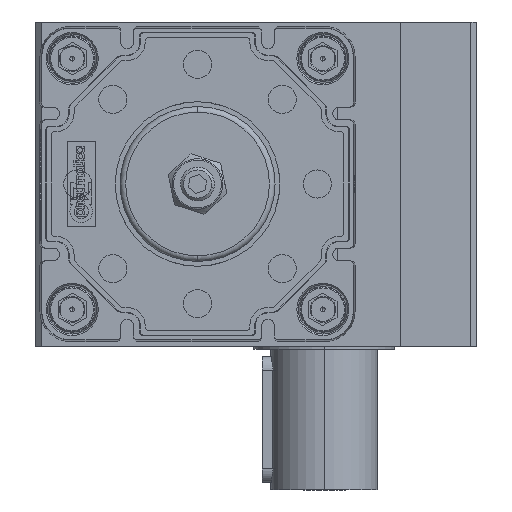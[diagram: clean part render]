
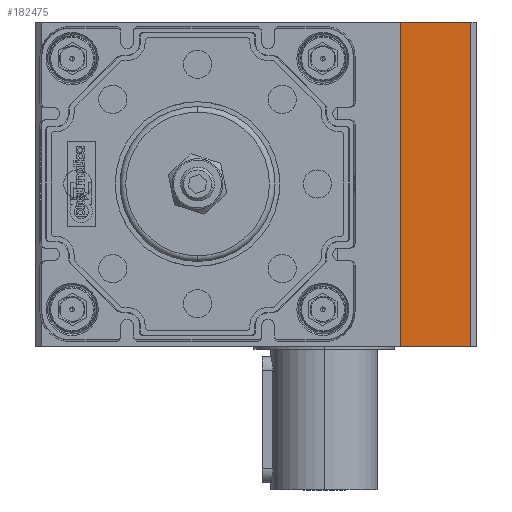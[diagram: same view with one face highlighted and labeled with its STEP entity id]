
A CAD part, front view. The second image highlights one B-rep face of the part: STEP entity #182475.
In plain terms, the highlighted planar face has unit normal (0, -1, 0).
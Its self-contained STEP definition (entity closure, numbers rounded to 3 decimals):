
#5888 = DIRECTION ( 'NONE',  ( 0., -1., 0. ) ) ;
#7377 = EDGE_CURVE ( 'NONE', #53463, #136164, #178718, .T. ) ;
#18803 = VECTOR ( 'NONE', #66723, 1000. ) ;
#20130 = CARTESIAN_POINT ( 'NONE',  ( 114.29, -73.046, 52.986 ) ) ;
#27404 = DIRECTION ( 'NONE',  ( 1., 0., 0. ) ) ;
#40115 = VERTEX_POINT ( 'NONE', #41102 ) ;
#41102 = CARTESIAN_POINT ( 'NONE',  ( 189.819, -73.046, 52.986 ) ) ;
#43945 = CARTESIAN_POINT ( 'NONE',  ( 189.819, -73.046, -62.014 ) ) ;
#53463 = VERTEX_POINT ( 'NONE', #155024 ) ;
#59904 = EDGE_LOOP ( 'NONE', ( #139658, #82079, #151865, #81002 ) ) ;
#62356 = VERTEX_POINT ( 'NONE', #43945 ) ;
#63362 = CARTESIAN_POINT ( 'NONE',  ( 164.819, -73.046, -4.514 ) ) ;
#66723 = DIRECTION ( 'NONE',  ( 0., 0., -1. ) ) ;
#67225 = FACE_OUTER_BOUND ( 'NONE', #59904, .T. ) ;
#73894 = CARTESIAN_POINT ( 'NONE',  ( 114.29, -73.046, -62.014 ) ) ;
#74583 = AXIS2_PLACEMENT_3D ( 'NONE', #97645, #5888, #176847 ) ;
#81002 = ORIENTED_EDGE ( 'NONE', *, *, #7377, .T. ) ;
#82079 = ORIENTED_EDGE ( 'NONE', *, *, #172734, .F. ) ;
#84524 = PLANE ( 'NONE',  #74583 ) ;
#95271 = CARTESIAN_POINT ( 'NONE',  ( 164.819, -73.046, -62.014 ) ) ;
#97645 = CARTESIAN_POINT ( 'NONE',  ( 189.819, -73.046, -4.514 ) ) ;
#98280 = CARTESIAN_POINT ( 'NONE',  ( 189.819, -73.046, -4.514 ) ) ;
#100486 = VECTOR ( 'NONE', #139332, 1000. ) ;
#104030 = EDGE_CURVE ( 'NONE', #53463, #40115, #159246, .T. ) ;
#117526 = VECTOR ( 'NONE', #27404, 1000. ) ;
#124842 = LINE ( 'NONE', #73894, #117526 ) ;
#130913 = DIRECTION ( 'NONE',  ( 1., 0., 0. ) ) ;
#136164 = VERTEX_POINT ( 'NONE', #95271 ) ;
#139332 = DIRECTION ( 'NONE',  ( 0., 0., -1. ) ) ;
#139658 = ORIENTED_EDGE ( 'NONE', *, *, #170265, .T. ) ;
#148545 = LINE ( 'NONE', #98280, #18803 ) ;
#149445 = VECTOR ( 'NONE', #130913, 1000. ) ;
#151865 = ORIENTED_EDGE ( 'NONE', *, *, #104030, .F. ) ;
#155024 = CARTESIAN_POINT ( 'NONE',  ( 164.819, -73.046, 52.986 ) ) ;
#159246 = LINE ( 'NONE', #20130, #149445 ) ;
#170265 = EDGE_CURVE ( 'NONE', #136164, #62356, #124842, .T. ) ;
#172734 = EDGE_CURVE ( 'NONE', #40115, #62356, #148545, .T. ) ;
#176847 = DIRECTION ( 'NONE',  ( 0., 0., 1. ) ) ;
#178718 = LINE ( 'NONE', #63362, #100486 ) ;
#182475 = ADVANCED_FACE ( 'NONE', ( #67225 ), #84524, .T. ) ;
